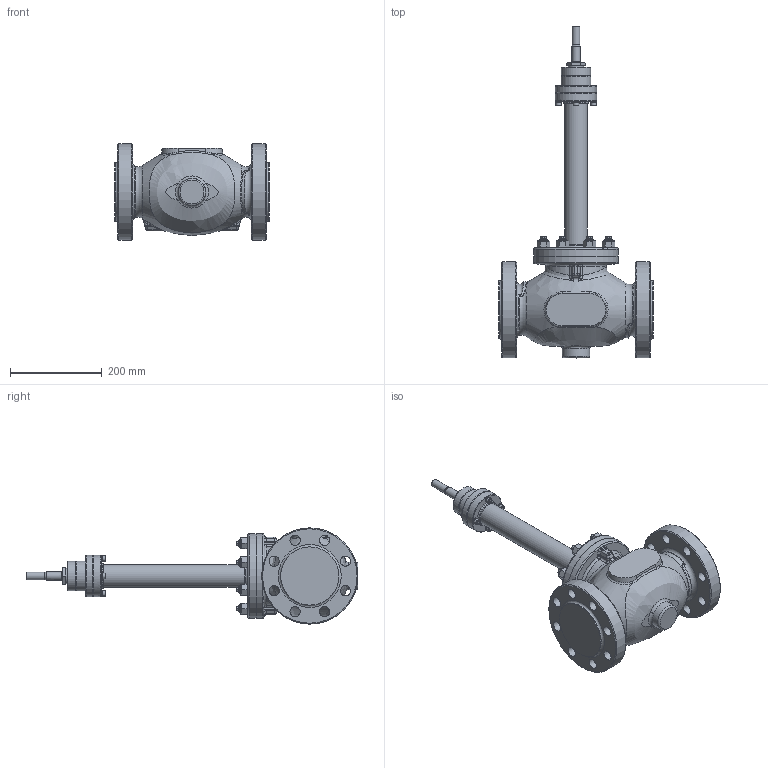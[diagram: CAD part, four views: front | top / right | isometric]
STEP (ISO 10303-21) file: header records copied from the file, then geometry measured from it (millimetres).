
FILE_DESCRIPTION(/* description */ (''),/* implementation_level */ '2;1');
FILE_NAME(/* name */ 'CV3xx_NPS_3_priruba_CL600_vlnovec.stp',/* time_stamp */ '2015-08-11T10:06:57+02:00',/* author */ (''),/* organization */ (''),/* preprocessor_version */ 'ST-DEVELOPER v15',/* originating_system */ 'SIEMENS PLM Software NX 8.5',/* authorisation */ '');
FILE_SCHEMA (('AP203_CONFIGURATION_CONTROLLED_3D_DESIGN_OF_MECHANICAL_PARTS_AND_ASSEMBLIES_MIM_LF { 1 0 10303 403 2 1 2}'));
Length unit declared in the file: millimetre
Products named in the file (1): adam1354300Cul75
Bounding box: 337 x 724 x 210 mm (x, y, z)
Volume: 9586812.4 mm3; surface area: 535313.1 mm2
Topology: 1 solids, 1 shells, 754 faces, 1745 edges, 1037 vertices
Faces by surface type: plane 250, cone 195, cylinder 170, bspline 66, torus 53, sphere 20
Full cylindrical faces by diameter (mm): 7 x4, 7.76 x4, 9 x4, 11.64 x4, 12.5 x8, 16 x25, 18 x9, 22.3 x16, 24 x16, 27 x1, 33 x1, 50 x1, 50.3 x2, 55 x1, 58 x1, 60 x1, 61.6 x1, 64 x1, 65 x1, 90 x2, 120 x1, 127 x2, 184 x2, 210 x2
Entity records: 22443 total; most frequent: CARTESIAN_POINT 7245, DIRECTION 3039, ORIENTED_EDGE 2930, EDGE_CURVE 1465, AXIS2_PLACEMENT_3D 1338, EDGE_LOOP 1055, VERTEX_POINT 950, ADVANCED_FACE 754
